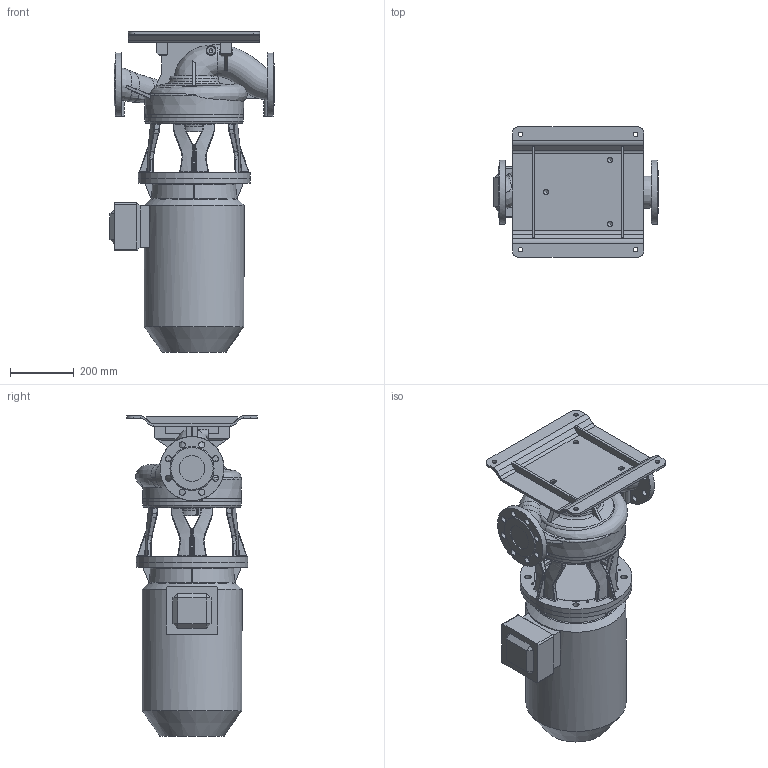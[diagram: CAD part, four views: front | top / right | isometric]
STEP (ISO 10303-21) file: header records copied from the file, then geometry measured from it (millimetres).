
FILE_DESCRIPTION (( 'STEP AP203' ), '1' );
FILE_NAME ('KI80-220_2_18,5kW.STEP', '2024-07-30T06:15:16', ( '' ), ( '' ), 'SwSTEP 2.0', 'SolidWorks 2023', '' );
FILE_SCHEMA (( 'CONFIG_CONTROL_DESIGN' ));
Length unit declared in the file: millimetre
Products named in the file (11): 220609; 230084; 230085; 230083; 440186_solid; 230572; KI80-220_2_18,5kW; 220610; 220532; 220531; 230574
Assembly tree (11 placements, depth 3):
  KI80-220_2_18,5kW
    220610
      220609
    230574
      230572
    220532
      220531
    230085
      230083
      230084  x2
    440186_solid
Bounding box: 513 x 408.67 x 1001.21 mm (x, y, z)
Volume: 59343686.5 mm3; surface area: 2324766.2 mm2
Topology: 7 solids, 7 shells, 850 faces, 2207 edges, 1352 vertices
Faces by surface type: bspline 296, plane 242, cylinder 196, cone 59, torus 55, sphere 2
Full cylindrical faces by diameter (mm): 6 x2, 6.8 x8, 10 x4, 10.2 x8, 11.445 x1, 11.8 x3, 14 x19, 14.5 x4, 18 x3, 19 x24, 80 x2, 225 x1, 243 x1, 250 x1, 255 x1, 308 x1, 313 x1, 350 x2
Entity records: 72874 total; most frequent: CARTESIAN_POINT 54383, ORIENTED_EDGE 3954, DIRECTION 2926, EDGE_CURVE 1977, VERTEX_POINT 1278, AXIS2_PLACEMENT_3D 1229, EDGE_LOOP 1103, FACE_OUTER_BOUND 931
